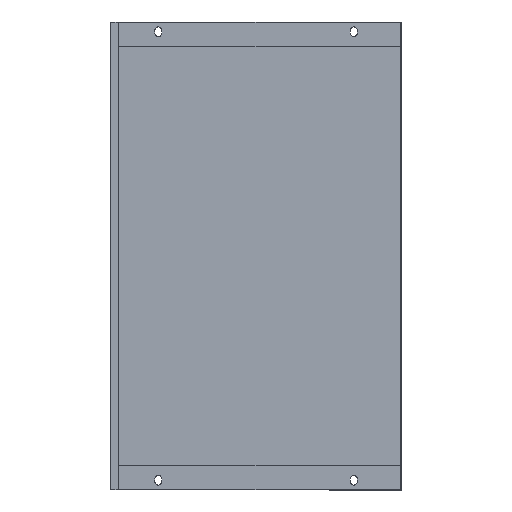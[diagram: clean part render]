
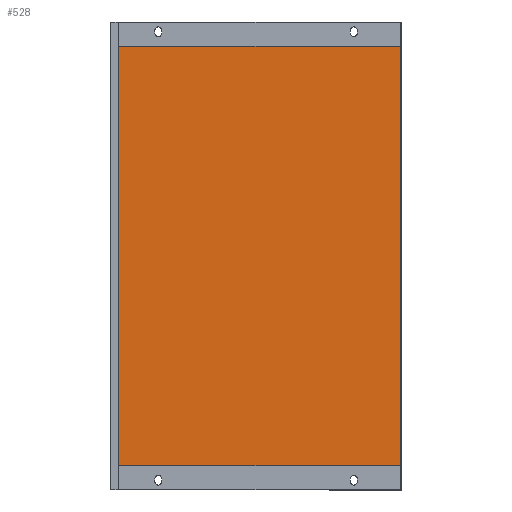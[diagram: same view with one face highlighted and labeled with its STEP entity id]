
A CAD part, front view. The second image highlights one B-rep face of the part: STEP entity #528.
In plain terms, the highlighted planar face has unit normal (0, -1, 0).
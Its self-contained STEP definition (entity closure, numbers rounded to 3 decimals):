
#140 = CARTESIAN_POINT ( 'NONE',  ( -8., 61.1, 479. ) ) ;
#199 = EDGE_CURVE ( 'NONE', #474, #912, #893, .T. ) ;
#206 = VECTOR ( 'NONE', #941, 1000. ) ;
#213 = ORIENTED_EDGE ( 'NONE', *, *, #1257, .T. ) ;
#331 = DIRECTION ( 'NONE',  ( 0., 0., -1. ) ) ;
#361 = CARTESIAN_POINT ( 'NONE',  ( 0., 61.1, 454. ) ) ;
#397 = CARTESIAN_POINT ( 'NONE',  ( -6.6, 61.1, 479. ) ) ;
#419 = ORIENTED_EDGE ( 'NONE', *, *, #199, .F. ) ;
#451 = VECTOR ( 'NONE', #1268, 1000. ) ;
#474 = VERTEX_POINT ( 'NONE', #651 ) ;
#476 = CARTESIAN_POINT ( 'NONE',  ( -6.6, 61.1, 454. ) ) ;
#495 = CARTESIAN_POINT ( 'NONE',  ( -6.6, 61.1, 25. ) ) ;
#528 = ADVANCED_FACE ( 'NONE', ( #681 ), #692, .F. ) ;
#542 = CARTESIAN_POINT ( 'NONE',  ( 0., 61.1, 25. ) ) ;
#573 = DIRECTION ( 'NONE',  ( 0., 0., 1. ) ) ;
#651 = CARTESIAN_POINT ( 'NONE',  ( 288.6, 61.1, 454. ) ) ;
#681 = FACE_OUTER_BOUND ( 'NONE', #1219, .T. ) ;
#692 = PLANE ( 'NONE',  #1272 ) ;
#762 = VECTOR ( 'NONE', #331, 1000. ) ;
#788 = EDGE_CURVE ( 'NONE', #1340, #912, #1096, .T. ) ;
#831 = LINE ( 'NONE', #361, #206 ) ;
#834 = ORIENTED_EDGE ( 'NONE', *, *, #1054, .T. ) ;
#873 = CARTESIAN_POINT ( 'NONE',  ( 288.6, 61.1, 479. ) ) ;
#893 = LINE ( 'NONE', #873, #762 ) ;
#912 = VERTEX_POINT ( 'NONE', #918 ) ;
#913 = VECTOR ( 'NONE', #1389, 1000. ) ;
#918 = CARTESIAN_POINT ( 'NONE',  ( 288.6, 61.1, 25. ) ) ;
#941 = DIRECTION ( 'NONE',  ( -1., 0., 0. ) ) ;
#1054 = EDGE_CURVE ( 'NONE', #1265, #1340, #1373, .T. ) ;
#1096 = LINE ( 'NONE', #542, #913 ) ;
#1219 = EDGE_LOOP ( 'NONE', ( #419, #213, #834, #1297 ) ) ;
#1239 = DIRECTION ( 'NONE',  ( 0., 1., 0. ) ) ;
#1257 = EDGE_CURVE ( 'NONE', #474, #1265, #831, .T. ) ;
#1265 = VERTEX_POINT ( 'NONE', #476 ) ;
#1268 = DIRECTION ( 'NONE',  ( 0., 0., -1. ) ) ;
#1272 = AXIS2_PLACEMENT_3D ( 'NONE', #140, #1239, #573 ) ;
#1297 = ORIENTED_EDGE ( 'NONE', *, *, #788, .T. ) ;
#1340 = VERTEX_POINT ( 'NONE', #495 ) ;
#1373 = LINE ( 'NONE', #397, #451 ) ;
#1389 = DIRECTION ( 'NONE',  ( 1., 0., 0. ) ) ;
